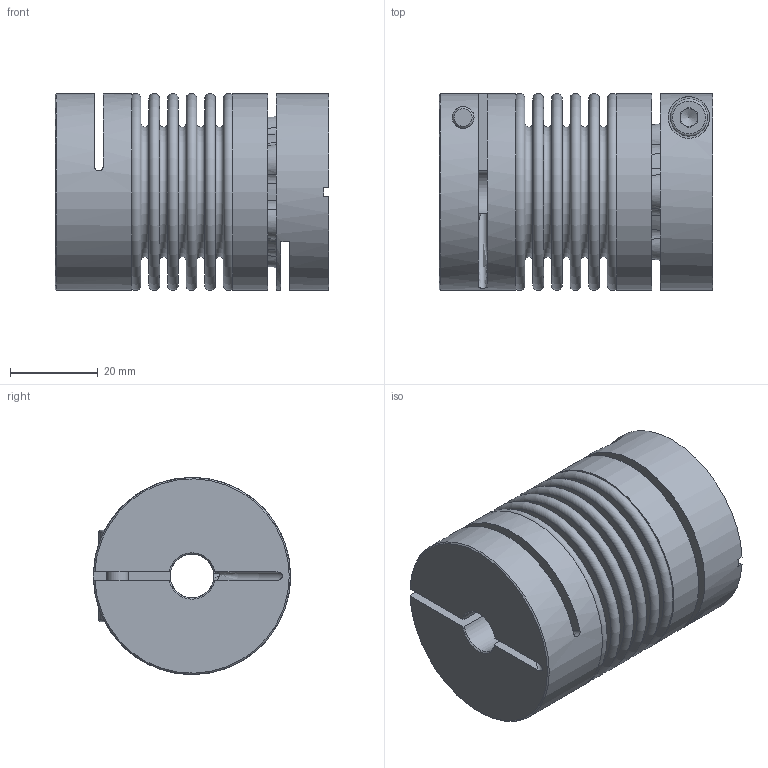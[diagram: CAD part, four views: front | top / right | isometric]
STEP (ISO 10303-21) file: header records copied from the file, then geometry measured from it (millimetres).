
FILE_DESCRIPTION( ( 'Unknown' ), '1' );
FILE_NAME( 'C:/Users/skarpstein/Desktop/KB4P/KB4P/KB4P-18-62.stp', 'Unknown', ( 'Unknown' ), ( 'Unknown' ), 'PSStep 16.0.42', 'Unknown', ' ' );
FILE_SCHEMA( ( 'AUTOMOTIVE_DESIGN { 1 0 10303 214 1 1 1 1 }' ) );
Length unit declared in the file: millimetre
Products named in the file (6): Assem1; BK18_Standard_0; KN18C_Standard; Socket Head Cap Screw_DIN_DIN 912 M5 x 16 --- 16N; Stecknabe KB4P-18; Balgaufnahme KB4P-18
Assembly tree (6 placements, depth 2):
  Assem1
    BK18_Standard_0
    KN18C_Standard
    Socket Head Cap Screw_DIN_DIN 912 M5 x 16 --- 16N  x2
    Stecknabe KB4P-18
    Balgaufnahme KB4P-18
Bounding box: 62.58 x 45 x 45 mm (x, y, z)
Volume: 57108.6 mm3; surface area: 46160.6 mm2
Topology: 6 solids, 6 shells, 186 faces, 426 edges, 277 vertices
Faces by surface type: plane 76, cone 55, torus 31, cylinder 23, bspline 1
Full cylindrical faces by diameter (mm): 4.134 x1, 5 x3, 5.3 x2, 8.5 x2, 9.5 x1, 10 x2, 40.4 x2, 41 x2, 45 x3
Entity records: 6802 total; most frequent: CARTESIAN_POINT 1631, DIRECTION 849, ORIENTED_EDGE 656, AXIS2_PLACEMENT_3D 373, EDGE_CURVE 328, VERTEX_POINT 254, EDGE_LOOP 249, FACE_OUTER_BOUND 207
